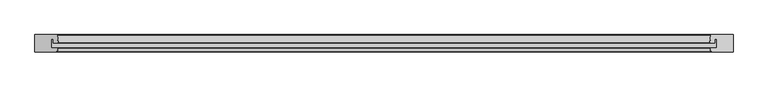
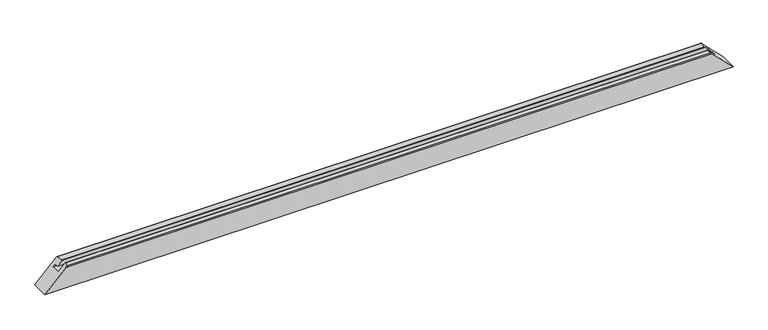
"""IFC4 building model written with IfcOpenShell, lengths in millimetres: proxy geometry, Weiku - Montante - Caixilho fixo 02.2.01.005 : Weiku - Montante - Caixilho fixo 02.2.01.005."""

from ifc_helpers import new_model, si_unit, frame, origin, place, context, project, spatial, ellipse_curve, source, transform, mapped, element, save
from ifc_brep_helpers import plane_surface, cylinder_surface, advanced_brep


def generic_models_dcf3d1ce(model_context):
    return source(origin(), model_context, "Body", "AdvancedBrep", [
        advanced_brep(
        [(-930.118227, -38.5070552, 66.881773), (-930.8909676, -37.5, 66.1090324), (-951.0, -37.5, 46.0), (-951.0, -12.5, 46.0), (-945.0009154, -12.5, 51.9990846), (-945.0009154, -23.5, 51.9990846), (-930.9865015, -23.5, 66.0134985), (-929.9998537, -22.3371317, 67.0001463), (-933.5489094, -0.8371317, 63.4510906), (-934.5355572, 0.0, 62.4644428), (-997.0, 0.0, 0.0), (-997.0, -50.0, 0.0), (-935.4997332, -50.0, 61.5002668), (-932.6019557, -47.7764571, 64.3980443), (932.6019557, -47.7764571, 64.3980443), (935.4997332, -50.0, 61.5002668), (997.0, -50.0, 0.0), (997.0, 0.0, 0.0), (934.5355572, 0.0, 62.4644428), (933.5489094, -0.8371317, 63.4510906), (929.9998537, -22.3371317, 67.0001463), (930.9865015, -23.5, 66.0134985), (945.0009154, -23.5, 51.9990846), (945.0009154, -12.5, 51.9990846), (951.0, -12.5, 46.0), (951.0, -37.5, 46.0), (930.8909676, -37.5, 66.1090324), (930.118227, -38.5070552, 66.881773)],
        [
            (0, 1, ellipse_curve(frame((-930.8909676, -38.3, 66.1090324), z_axis=(-0.7071067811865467, 0.0, 0.7071067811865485), x_axis=(-0.7071067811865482, 0.0, -0.7071067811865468)), 1.1313708, 0.8)),
            (1, 2),
            (2, 3),
            (3, 4),
            (4, 5),
            (5, 6),
            (6, 7, ellipse_curve(frame((-930.9865015, -22.5, 66.0134985), z_axis=(-0.7071067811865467, 0.0, 0.7071067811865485), x_axis=(-0.7071067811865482, 0.0, -0.7071067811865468)), 1.4142136, 1.0)),
            (7, 8),
            (8, 9, ellipse_curve(frame((-934.5355572, -1.0, 62.4644428), z_axis=(-0.7071067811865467, 0.0, 0.7071067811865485), x_axis=(-0.7071067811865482, 0.0, -0.7071067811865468)), 1.4142136, 1.0)),
            (9, 10),
            (10, 11),
            (11, 12),
            (12, 13, ellipse_curve(frame((-935.4997332, -47.0, 61.5002668), z_axis=(-0.7071067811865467, 0.0, 0.7071067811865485), x_axis=(-0.7071067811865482, 0.0, -0.7071067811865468)), 4.2426407, 3.0)),
            (13, 0),
            (14, 15, ellipse_curve(frame((935.4997332, -47.0, 61.5002668), z_axis=(0.7071067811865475, 0.0, 0.7071067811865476), x_axis=(-0.7071067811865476, 0.0, 0.7071067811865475)), 4.2426407, 3.0)),
            (15, 16),
            (16, 17),
            (17, 18),
            (18, 19, ellipse_curve(frame((934.5355572, -1.0, 62.4644428), z_axis=(0.7071067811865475, 0.0, 0.7071067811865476), x_axis=(-0.7071067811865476, 0.0, 0.7071067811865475)), 1.4142136, 1.0)),
            (19, 20),
            (20, 21, ellipse_curve(frame((930.9865015, -22.5, 66.0134985), z_axis=(0.7071067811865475, 0.0, 0.7071067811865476), x_axis=(-0.7071067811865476, 0.0, 0.7071067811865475)), 1.4142136, 1.0)),
            (21, 22),
            (22, 23),
            (23, 24),
            (24, 25),
            (25, 26),
            (26, 27, ellipse_curve(frame((930.8909676, -38.3, 66.1090324), z_axis=(0.7071067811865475, 0.0, 0.7071067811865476), x_axis=(-0.7071067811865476, 0.0, 0.7071067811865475)), 1.1313708, 0.8)),
            (27, 14),
            (13, 14),
            (27, 0),
            (12, 15),
            (11, 16),
            (10, 17),
            (9, 18),
            (8, 19),
            (7, 20),
            (6, 21),
            (5, 22),
            (4, 23),
            (3, 24),
            (2, 25),
            (1, 26),
        ],
        [
            plane_surface(frame((-1067.0, 15.0, -70.0), z_axis=(-0.7071067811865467, 0.0, 0.7071067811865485), x_axis=(0.0, -1.0, 0.0))),
            plane_surface(frame((927.0, 15.0, 70.0), z_axis=(0.7071067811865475, 0.0, 0.7071067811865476), x_axis=(0.0, -1.0, 0.0))),
            plane_surface(frame((-997.0, -38.5070552, 66.881773), z_axis=(0.0, -0.2588190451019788, 0.9659258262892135), x_axis=(1.0, 0.0, 0.0))),
            cylinder_surface(frame((-997.0, -47.0, 61.5002668), z_axis=(-1.0, 0.0, 0.0), x_axis=(0.0, 1.0, 0.0)), 3.0),
            plane_surface(frame((-997.0, -50.0, 61.5002668), z_axis=(0.0, -1.0, 0.0), x_axis=(1.0, 0.0, 0.0))),
            plane_surface(frame((-997.0, -50.0, 0.0), z_axis=(0.0, 0.0, -1.0), x_axis=(1.0, 0.0, 0.0))),
            plane_surface(frame((-997.0, 0.0, 0.0), z_axis=(0.0, 1.0, 0.0), x_axis=(1.0, 0.0, 0.0))),
            cylinder_surface(frame((-997.0, -1.0, 62.4644428), z_axis=(-1.0, 0.0, 0.0), x_axis=(0.0, -1.0, 0.0)), 1.0),
            plane_surface(frame((-997.0, -0.8371317, 63.4510906), z_axis=(0.0, 0.16286828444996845, 0.9866478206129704), x_axis=(1.0, 0.0, 0.0))),
            cylinder_surface(frame((-997.0, -22.5, 66.0134985), z_axis=(-1.0, 0.0, 0.0), x_axis=(0.0, -1.0, 0.0)), 1.0),
            plane_surface(frame((-997.0, -23.5, 66.0134985), z_axis=(0.0, -1.0, 0.0), x_axis=(1.0, 0.0, 0.0))),
            plane_surface(frame((-997.0, -23.5, 51.9990846), z_axis=(0.0, 0.0, -1.0), x_axis=(1.0, 0.0, 0.0))),
            plane_surface(frame((-997.0, -12.5, 51.9990846), z_axis=(0.0, -1.0, 0.0), x_axis=(1.0, 0.0, 0.0))),
            plane_surface(frame((-997.0, -12.5, 46.0), z_axis=(0.0, 0.0, 1.0), x_axis=(1.0, 0.0, 0.0))),
            plane_surface(frame((-997.0, -37.5, 46.0), z_axis=(0.0, 1.0, 0.0), x_axis=(1.0, 0.0, 0.0))),
            cylinder_surface(frame((-997.0, -38.3, 66.1090324), z_axis=(-1.0, 0.0, 0.0), x_axis=(0.0, 1.0, 0.0)), 0.8),
        ],
        [
            (0, [[1, 2, 3, 4, 5, 6, 7, 8, 9, 10, 11, 12, 13, 14]]),
            (1, [[15, 16, 17, 18, 19, 20, 21, 22, 23, 24, 25, 26, 27, 28]]),
            (2, [[29, -28, 30, -14]]),
            (3, [[31, -15, -29, -13]]),
            (4, [[-16, -31, -12, 32]]),
            (5, [[-11, 33, -17, -32]]),
            (6, [[-10, 34, -18, -33]]),
            (7, [[35, -19, -34, -9]]),
            (8, [[36, -20, -35, -8]]),
            (9, [[37, -21, -36, -7]]),
            (10, [[38, -22, -37, -6]]),
            (11, [[39, -23, -38, -5]]),
            (12, [[40, -24, -39, -4]]),
            (13, [[41, -25, -40, -3]]),
            (14, [[42, -26, -41, -2]]),
            (15, [[-30, -27, -42, -1]]),
        ],
    ),
    ])


if __name__ == "__main__":
    model = new_model("IFC4")
    model_context = context("Model", 3, world=origin())
    ifc_project = project(units=[si_unit("LENGTHUNIT", "METRE", prefix="MILLI")], contexts=[model_context])
    site = spatial("IfcSite", under=ifc_project)
    building = spatial("IfcBuilding", under=site)
    placement = place(None, origin())
    generic_models_shape = generic_models_dcf3d1ce(model_context)
    element("IfcBuildingElementProxy", 1, Name="Weiku - Montante - Caixilho fixo 02.2.01.005 : Weiku - Montante - Caixilho fixo 02.2.01.005", ObjectType="Weiku - Montante - Caixilho fixo 02.2.01.005 : Weiku - Montante - Caixilho fixo 02.2.01.005", at=placement, inside=building, context=model_context, shape_type="MappedRepresentation", body=[
        mapped(generic_models_shape, transform((0.0, 0.0, 0.0), x_axis=(1.0, 0.0, 0.0), y_axis=(0.0, 1.0, 0.0), z_axis=(0.0, 0.0, 1.0))),
    ])
    save(model, "model.ifc")
